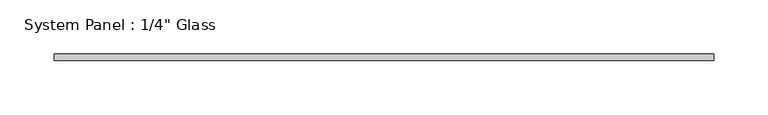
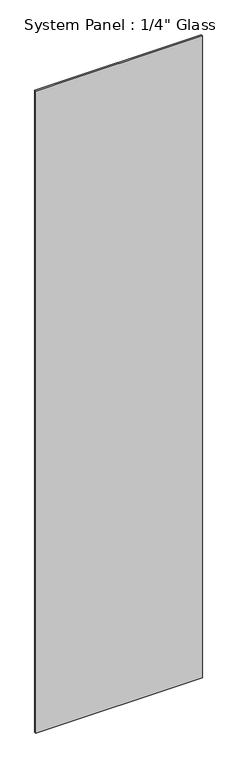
"""IFC4 building model written with IfcOpenShell, lengths in millimetres: plate geometry."""

from ifc_helpers import new_model, si_unit, origin, origin_with_axes, place, context, project, spatial, polyline, outline, extrude, source, transform, mapped, element, save


def plate_9188e7fd(model_context):
    return source(origin(), model_context, "Body", "SweptSolid", [
        extrude(outline(polyline([(305.5504575, -3.175), (-305.5504575, -3.175), (-305.5504575, 3.175), (305.5504575, 3.175), (305.5504575, -3.175)])), origin_with_axes(), (0.0, 0.0, 1.0), 2489.2),
    ])


if __name__ == "__main__":
    model = new_model("IFC4")
    model_context = context("Model", 3, world=origin())
    ifc_project = project(units=[si_unit("LENGTHUNIT", "METRE", prefix="MILLI")], contexts=[model_context])
    site = spatial("IfcSite", under=ifc_project)
    building = spatial("IfcBuilding", under=site)
    placement = place(None, origin())
    plate_shape = plate_9188e7fd(model_context)
    element("IfcPlate", 1, ObjectType="System Panel : 1/4\" Glass", at=placement, inside=building, context=model_context, shape_type="MappedRepresentation", body=[
        mapped(plate_shape, transform((0.0, 0.0, 0.0), x_axis=(1.0, 0.0, 0.0), y_axis=(0.0, 1.0, 0.0), z_axis=(0.0, 0.0, 1.0))),
    ])
    save(model, "model.ifc")
